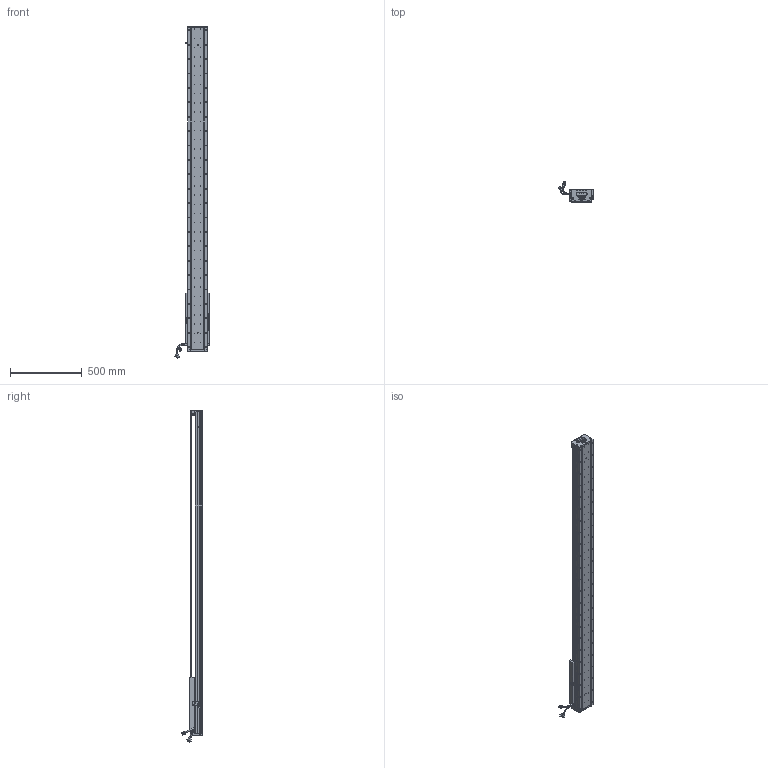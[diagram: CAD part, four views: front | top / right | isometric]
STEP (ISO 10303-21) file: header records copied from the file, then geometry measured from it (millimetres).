
FILE_DESCRIPTION (( 'STEP AP203' ), '1' );
FILE_NAME ('Z5-RY140D-1-L500-B-K.SLDASM_1800.step', '2021-05-17T08:37:49', ( '盈信电脑' ), ( '东莞市道滘镇水果街19号' ), 'SwSTEP 2.0', 'SolidWorks 2016', '' );
FILE_SCHEMA (( 'CONFIG_CONTROL_DESIGN' ));
Length unit declared in the file: millimetre
Products named in the file (36): SCALE-Part-2; 榋妏寠巭燃_暯_M2_2; SCREW-M1.6-2; SCREW-M1.7-1; SCALE-Part-1; SCREW-M1.7; 覜茼ん672; Z-RY140感应器672光电感应片; HARNESS; PBU_SHEET; SCALE; 140-Z-臏賑輸盄裔(21遴); 詩湍奻揤裔; SCREW-M1.6-1; LABEL; SHIELDPLATE; SCREW-M1.6; 140蚥薯蝶輸; PSLH080_PSLF2; HARNESS-Part-2; 詩湍狟揤裔; SEAL; 140雄赽晤鎢ん堤盄; HARNESS-Part-1; Z5-RY140圉猾敕臏賑輸(21遴); LABEL-Part-1; Z5-RY140-L500直线电机模组底座_1800; SCREW-M1.6-3; SEAL-Part-1; HOLDER0; 080黍杅芛假蚾釱21遴; COVER-Part-1; Z5-RY140-L500詩湍100mm遵_1800; COVER; Z-140詩湍傷裔啣; Z5-RY140D-1-L500-B-K.SLDASM_1800
Assembly tree (41 placements, depth 4):
  Z5-RY140D-1-L500-B-K.SLDASM_1800
    Z5-RY140-L500直线电机模组底座_1800
    Z-RY140感应器672光电感应片
    Z5-RY140圉猾敕臏賑輸(21遴)
    覜茼ん672  x3
    Z5-RY140-L500詩湍100mm遵_1800
    PSLH080_PSLF2
      SCALE
        SCALE-Part-1
        SCALE-Part-2
      HARNESS
        HARNESS-Part-1
        HARNESS-Part-2
      LABEL
        LABEL-Part-1
      COVER
        COVER-Part-1
      SEAL
        SEAL-Part-1
      榋妏寠巭燃_暯_M2_2
      SHIELDPLATE
      SCREW-M1.7
      SCREW-M1.7-1
      PBU_SHEET
      SCREW-M1.6
      SCREW-M1.6-1
      SCREW-M1.6-2
      SCREW-M1.6-3
      HOLDER0
    080黍杅芛假蚾釱21遴
    140-Z-臏賑輸盄裔(21遴)
    Z-140詩湍傷裔啣  x2
    詩湍狟揤裔  x2
    詩湍奻揤裔  x2
    140蚥薯蝶輸  x2
    140雄赽晤鎢ん堤盄
Bounding box: 239.84 x 143.88 x 2305.87 mm (x, y, z)
Volume: 7912541.3 mm3; surface area: 2021202.5 mm2
Topology: 36 solids, 36 shells, 3962 faces, 10728 edges, 6801 vertices
Faces by surface type: cylinder 2120, plane 1338, cone 382, torus 69, bspline 53
Entity records: 124472 total; most frequent: CARTESIAN_POINT 34503, ORIENTED_EDGE 18416, DIRECTION 17272, EDGE_CURVE 9208, AXIS2_PLACEMENT_3D 6434, VERTEX_POINT 5969, LINE 4404, VECTOR 4404
